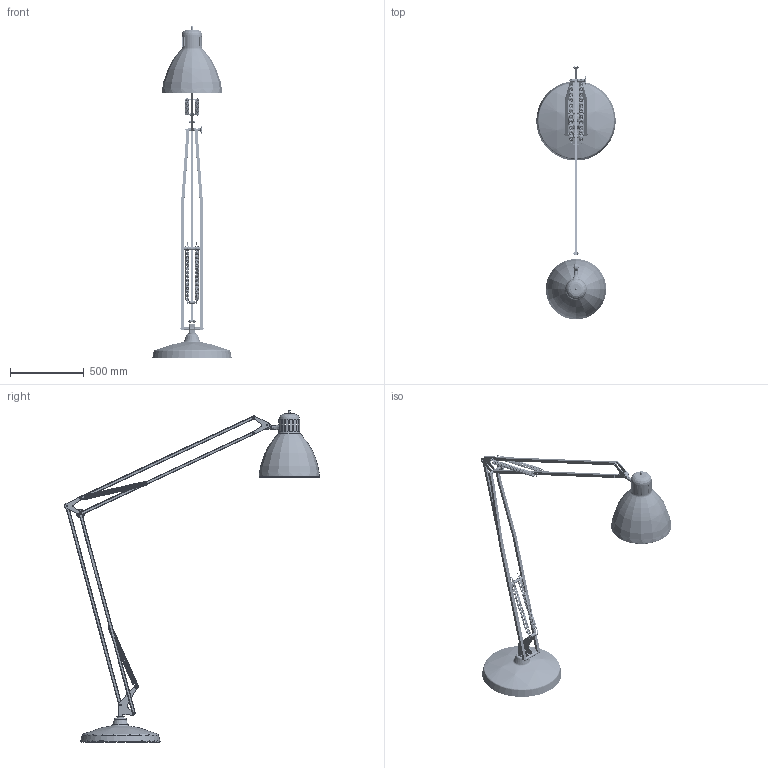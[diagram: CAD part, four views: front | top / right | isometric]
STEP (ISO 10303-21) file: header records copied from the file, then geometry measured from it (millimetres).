
FILE_DESCRIPTION(/* description */ (''),/* implementation_level */ '2;1');
FILE_NAME(/* name */ 'R:\Tecnico\_NEW TECNICO CLANN\PROGETTI DI SERIE\S20-001 BIG JJ FLOOR INDOOR-OUTDOOR\Studi\JJ BIG PER STP\JJ BIG STP0008 PER DERIVAZIONE.stp',/* time_stamp */ '2020-10-05T13:58:27+02:00',/* author */ ('matteo.garelli'),/* organization */ (''),/* preprocessor_version */ 'ST-DEVELOPER v18.1',/* originating_system */ 'Autodesk Inventor 2020',/* authorisation */ '');
FILE_SCHEMA (('AUTOMOTIVE_DESIGN { 1 0 10303 214 3 1 1 }'));
Length unit declared in the file: millimetre
Products named in the file (1): JJ BIG STP0008 PER DERIVAZIONE
Bounding box: 540 x 1730.85 x 2254.7 mm (x, y, z)
Volume: 4675777.6 mm3; surface area: 3303262 mm2
Topology: 16 solids, 17 shells, 931 faces, 2642 edges, 1831 vertices
Faces by surface type: plane 447, cylinder 299, torus 104, cone 44, bspline 33, sphere 4
Full cylindrical faces by diameter (mm): 3.242 x1, 3.75 x11, 4 x1, 4.5 x2, 4.917 x2, 6 x2, 6.5 x2, 6.647 x10, 7.5 x2, 8 x18, 8.5 x5, 8.917 x1, 9 x57, 10 x1, 12 x1, 13 x2, 15.5 x2, 15.55 x1, 15.7 x1, 20 x24, 22 x1, 30 x1, 40 x1, 40.5 x1, 50 x1, 52 x1, 53 x1, 137 x1, 140 x1, 146.42 x1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
Entity records: 71591 total; most frequent: CARTESIAN_POINT 45035, DIRECTION 5494, ORIENTED_EDGE 5272, EDGE_CURVE 2636, AXIS2_PLACEMENT_3D 2118, VERTEX_POINT 1831, LINE 1258, VECTOR 1258
